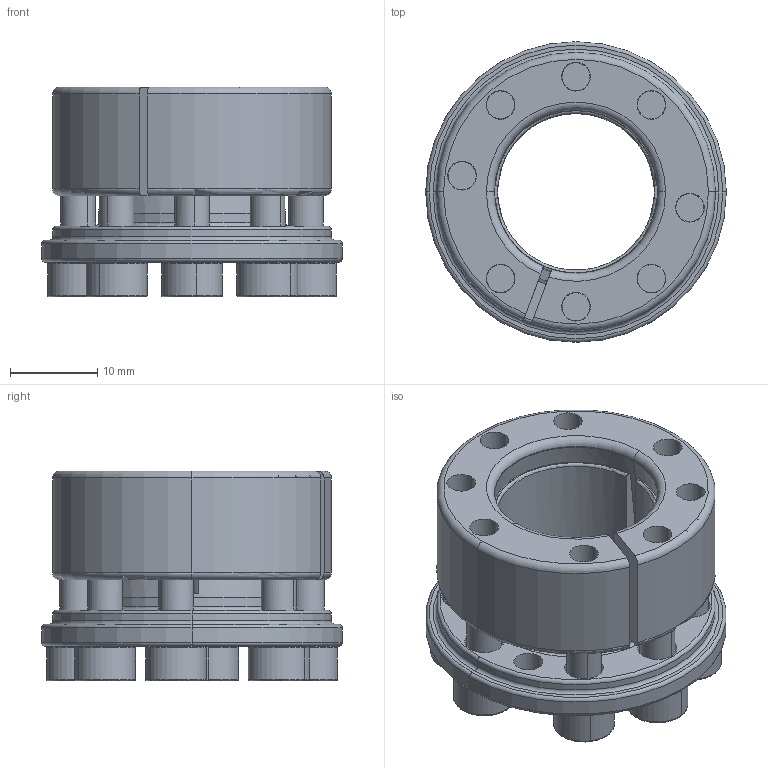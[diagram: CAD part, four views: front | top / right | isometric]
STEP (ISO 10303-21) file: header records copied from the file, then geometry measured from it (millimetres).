
FILE_DESCRIPTION (( 'STEP AP203' ), '1' );
FILE_NAME ('SAPL-A-18-32.STEP', '2013-07-22T06:41:57', ( 'MYCOM' ), ( '' ), 'SwSTEP 2.0', 'SolidWorks 2012', '' );
FILE_SCHEMA (( 'CONFIG_CONTROL_DESIGN' ));
Length unit declared in the file: millimetre
Products named in the file (1): SAPL-A-18-32
Bounding box: 34.5 x 34.5 x 24.1 mm (x, y, z)
Volume: 10509.3 mm3; surface area: 7808.4 mm2
Topology: 1 solids, 1 shells, 374 faces, 931 edges, 556 vertices
Faces by surface type: plane 143, cylinder 95, torus 79, cone 57
Entity records: 11415 total; most frequent: CARTESIAN_POINT 2214, DIRECTION 2100, ORIENTED_EDGE 1830, EDGE_CURVE 915, AXIS2_PLACEMENT_3D 870, VERTEX_POINT 556, CIRCLE 495, EDGE_LOOP 413
